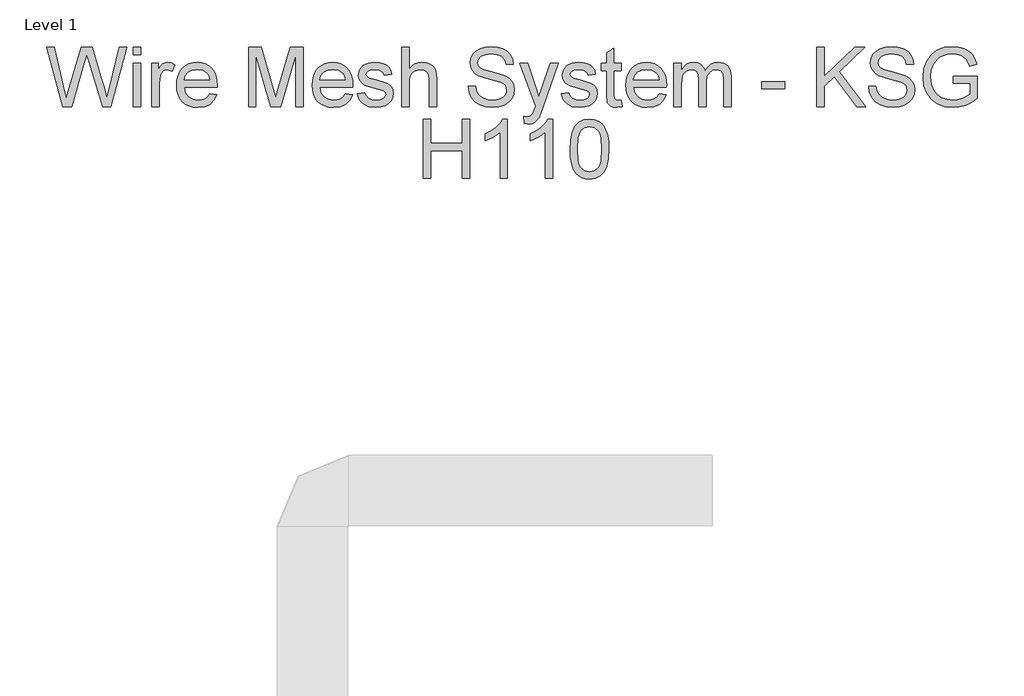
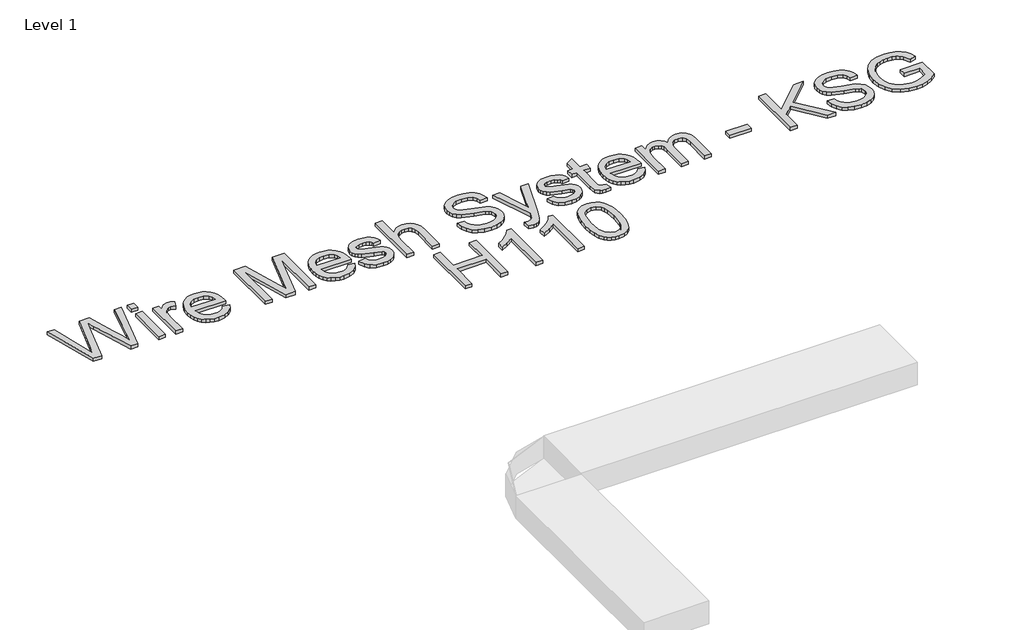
# One storey, part 18 of 32: 1 proxy.
"""IFC4 building model written with IfcOpenShell, lengths in millimetres."""

from ifc_helpers import new_model, si_unit, origin, origin_with_axes, place, context, project, spatial, polyline, outline, extrude, element, save

model = new_model("IFC4")

# Units and contexts
model_context = context("Model", 3, world=origin())
ifc_project = project(units=[si_unit("LENGTHUNIT", "METRE", prefix="MILLI")], contexts=[model_context])

# Site, building, storey
site = spatial("IfcSite", under=ifc_project)
building = spatial("IfcBuilding", under=site)
storey = spatial("IfcBuildingStorey", under=building, Name="Level 1", Elevation=0.0)

# Proxy
placement = place(None, origin())
element("IfcBuildingElementProxy", 1, Name="250mm Arial 3", ObjectType="250mm Arial 3", at=placement, inside=storey, context=model_context, shape_type="SweptSolid", body=[
    extrude(outline(polyline([(11206.4057877, 23403.1379564), (11137.9184229, 23654.2787318), (11170.2920385, 23654.2787318), (11210.0232939, 23489.2223433), (11222.2860271, 23438.2706869), (11235.4071516, 23483.3362313), (11285.1938483, 23654.2787318), (11331.853548, 23654.2787318), (11368.0286109, 23530.3638131), (11383.5256399, 23484.3785637), (11394.9453102, 23438.2706869), (11406.8401614, 23487.7508153), (11446.9392988, 23654.2787318), (11479.3129144, 23654.2787318), (11410.764236, 23403.1379564), (11377.2256608, 23403.1379564), (11317.0156409, 23596.8891405), (11308.6156686, 23623.9284672), (11299.1733641, 23591.3709106), (11244.2976332, 23403.1379564), (11206.4057877, 23403.1379564)])), origin_with_axes(), (0.0, 0.0, 1.0), 15.0),
    extrude(outline(polyline([(11506.7814367, 23622.8861348), (11506.7814367, 23654.2787318), (11538.1740336, 23654.2787318), (11538.1740336, 23622.8861348), (11506.7814367, 23622.8861348)])), origin_with_axes(), (0.0, 0.0, 1.0), 15.0),
    extrude(outline(polyline([(11506.7814367, 23403.1379564), (11506.7814367, 23587.5694633), (11538.1740336, 23587.5694633), (11538.1740336, 23403.1379564), (11506.7814367, 23403.1379564)])), origin_with_axes(), (0.0, 0.0, 1.0), 15.0),
    extrude(outline(polyline([(11585.262929, 23403.1379564), (11585.262929, 23587.5694633), (11612.7314513, 23587.5694633), (11612.7314513, 23560.284882), (11622.878863, 23576.1038078), (11632.2291971, 23585.423485), (11651.8495701, 23591.4935379), (11667.4845549, 23589.0716481), (11683.3647944, 23581.8059787), (11672.8801575, 23553.6630061), (11650.8072378, 23560.100941), (11641.4339112, 23558.5527709), (11633.0569316, 23553.9082608), (11621.7445602, 23536.7404343), (11616.6555259, 23500.0748621), (11616.6555259, 23403.1379564), (11585.262929, 23403.1379564)])), origin_with_axes(), (0.0, 0.0, 1.0), 15.0),
    extrude(outline(polyline([(11832.1117478, 23458.075001), (11862.891208, 23454.1509264), (11851.8010987, 23430.9590323), (11834.1044419, 23413.6225933), (11810.1997764, 23402.8160596), (11780.4856411, 23399.2138818), (11761.0070559, 23400.7678), (11743.6514564, 23405.4295547), (11728.4188425, 23413.1991458), (11715.3092143, 23424.0765733), (11704.7670959, 23437.759101), (11697.2370113, 23453.9439928), (11692.7189606, 23472.6312485), (11691.2129436, 23493.8208682), (11692.734289, 23515.7290074), (11697.298325, 23535.0389801), (11704.9050516, 23551.7507861), (11715.554469, 23565.8644256), (11728.6296082, 23577.0771622), (11743.5135006, 23585.0862598), (11760.2061461, 23589.8917184), (11778.7075448, 23591.4935379), (11796.6130513, 23589.8955505), (11812.8056072, 23585.1015883), (11827.2852127, 23577.1116512), (11840.0518675, 23565.9257393), (11850.4732747, 23551.8427566), (11857.9171369, 23535.1616074), (11862.3834543, 23515.8822916), (11863.8722267, 23494.0048092), (11863.6882857, 23485.5435233), (11722.6055406, 23485.5435233), (11728.0394642, 23462.0450609), (11740.6624152, 23444.7699355), (11758.8802381, 23434.1473429), (11781.0987778, 23430.6064787), (11797.8067517, 23432.2466193), (11811.8782381, 23437.1670409), (11823.3132367, 23445.6743121), (11832.1117478, 23458.075001)]), holes=[polyline([(11722.6055406, 23516.9361202), (11832.4796298, 23516.9361202), (11828.2336584, 23533.5214669), (11819.9103283, 23545.3856612), (11801.608199, 23556.4221211), (11778.5849175, 23560.100941), (11757.4240386, 23557.1655493), (11739.9266512, 23548.359374), (11727.7635527, 23534.632777), (11722.6055406, 23516.9361202)])]), origin_with_axes(), (0.0, 0.0, 1.0), 15.0),
    extrude(outline(polyline([(11997.2907636, 23403.1379564), (11997.2907636, 23654.2787318), (12051.3081032, 23654.2787318), (12102.6889552, 23477.2661784), (12113.0509648, 23440.2940379), (12124.2713656, 23480.3318617), (12174.7938263, 23654.2787318), (12228.8111659, 23654.2787318), (12228.8111659, 23403.1379564), (12197.418569, 23403.1379564), (12197.418569, 23622.8861348), (12134.3268068, 23403.1379564), (12091.7751227, 23403.1379564), (12028.6833605, 23622.8861348), (12028.6833605, 23403.1379564), (11997.2907636, 23403.1379564)])), origin_with_axes(), (0.0, 0.0, 1.0), 15.0),
    extrude(outline(polyline([(12408.9507162, 23458.075001), (12439.7301765, 23454.1509264), (12428.6400672, 23430.9590323), (12410.9434104, 23413.6225933), (12387.0387449, 23402.8160596), (12357.3246096, 23399.2138818), (12337.8460243, 23400.7678), (12320.4904248, 23405.4295547), (12305.2578109, 23413.1991458), (12292.1481828, 23424.0765733), (12281.6060643, 23437.759101), (12274.0759797, 23453.9439928), (12269.557929, 23472.6312485), (12268.0519121, 23493.8208682), (12269.5732574, 23515.7290074), (12274.1372934, 23535.0389801), (12281.7440201, 23551.7507861), (12292.3934374, 23565.8644256), (12305.4685767, 23577.0771622), (12320.3524691, 23585.0862598), (12337.0451146, 23589.8917184), (12355.5465133, 23591.4935379), (12373.4520197, 23589.8955505), (12389.6445757, 23585.1015883), (12404.1241811, 23577.1116512), (12416.890836, 23565.9257393), (12427.3122431, 23551.8427566), (12434.7561053, 23535.1616074), (12439.2224227, 23515.8822916), (12440.7111951, 23494.0048092), (12440.5272541, 23485.5435233), (12299.444509, 23485.5435233), (12304.8784326, 23462.0450609), (12317.5013836, 23444.7699355), (12335.7192066, 23434.1473429), (12357.9377462, 23430.6064787), (12374.6457202, 23432.2466193), (12388.7172065, 23437.1670409), (12400.1522052, 23445.6743121), (12408.9507162, 23458.075001)]), holes=[polyline([(12299.444509, 23516.9361202), (12409.3185982, 23516.9361202), (12405.0726269, 23533.5214669), (12396.7492967, 23545.3856612), (12378.4471675, 23556.4221211), (12355.4238859, 23560.100941), (12334.263007, 23557.1655493), (12316.7656196, 23548.359374), (12304.6025211, 23534.632777), (12299.444509, 23516.9361202)])]), origin_with_axes(), (0.0, 0.0, 1.0), 15.0),
    extrude(outline(polyline([(12460.3315682, 23458.075001), (12491.7241651, 23461.9990756), (12496.6752437, 23448.5713828), (12506.2555039, 23438.6998826), (12520.5262597, 23432.6298297), (12539.5488245, 23430.6064787), (12558.3414631, 23432.4612171), (12571.5545581, 23438.0254323), (12579.3720505, 23446.0881793), (12581.9778813, 23455.4385134), (12579.3567221, 23463.4399468), (12571.4932444, 23469.5406565), (12539.1809425, 23478.4924517), (12491.9081061, 23493.851525), (12479.9442771, 23501.5693827), (12471.2760576, 23511.7857723), (12466.0107465, 23523.8492361), (12464.2556428, 23537.1083163), (12469.8965001, 23560.4994798), (12485.2862302, 23578.3724134), (12505.2438285, 23587.6614338), (12532.2524983, 23591.4935379), (12552.6852774, 23589.9530321), (12570.4509121, 23585.3315145), (12584.7369963, 23578.0811735), (12594.7311238, 23568.6541974), (12601.3529997, 23556.3531432), (12605.522329, 23540.4805679), (12574.1297321, 23536.5564933), (12570.1673364, 23546.4356577), (12562.3268514, 23553.8776039), (12550.5316349, 23558.5451067), (12534.7050449, 23560.100941), (12516.6788271, 23558.6140846), (12504.6613486, 23554.1535154), (12497.901517, 23547.7155805), (12495.6482398, 23540.2966269), (12499.3883734, 23531.1608907), (12511.0992836, 23524.2324465), (12538.1386102, 23517.5492569), (12584.2158301, 23502.7726634), (12596.3865928, 23495.7062634), (12605.6142995, 23486.0340326), (12611.4314335, 23473.7253142), (12613.3704782, 23458.7494513), (12611.0942084, 23443.2677507), (12604.2653988, 23428.7057551), (12593.1446327, 23416.2054314), (12577.992493, 23406.9087468), (12559.6903637, 23401.137598), (12539.1196289, 23399.2138818), (12507.4664488, 23402.9233586), (12484.3665252, 23414.0517889), (12468.9461383, 23432.4765455), (12460.3315682, 23458.075001)])), origin_with_axes(), (0.0, 0.0, 1.0), 15.0),
    extrude(outline(polyline([(12648.6871497, 23403.1379564), (12648.6871497, 23654.2787318), (12680.0797467, 23654.2787318), (12680.0797467, 23561.940351), (12691.610548, 23574.8698703), (12704.5592278, 23584.1052412), (12718.9257861, 23589.6464637), (12734.710223, 23591.4935379), (12753.6714741, 23589.4778512), (12769.9655808, 23583.4307909), (12782.7954654, 23573.8275379), (12791.3640502, 23561.1432733), (12796.1925014, 23543.7148638), (12797.8019851, 23519.8791762), (12797.8019851, 23403.1379564), (12766.4093882, 23403.1379564), (12766.4093882, 23516.6295519), (12763.9108563, 23536.2805818), (12756.4152607, 23549.7389315), (12744.3364685, 23557.5104386), (12728.088347, 23560.100941), (12714.8216026, 23558.3535015), (12702.3672642, 23553.1111831), (12692.0512399, 23544.8798235), (12685.1994378, 23534.1652603), (12681.3596694, 23519.9251614), (12680.0797467, 23501.1171944), (12680.0797467, 23403.1379564), (12648.6871497, 23403.1379564)])), origin_with_axes(), (0.0, 0.0, 1.0), 15.0),
    extrude(outline(polyline([(12931.220522, 23489.4675979), (12962.613119, 23489.4675979), (12966.2152968, 23472.0468526), (12972.7298738, 23458.0443442), (12982.8926139, 23446.9312422), (12997.4392812, 23438.1787164), (13015.2202443, 23432.4995381), (13035.085872, 23430.6064787), (13052.5755952, 23432.0396856), (13067.8886833, 23436.3393065), (13080.2970364, 23443.1451234), (13089.0725548, 23452.0969186), (13094.2918806, 23462.3746218), (13096.0316559, 23473.1581628), (13090.8199943, 23492.7478791), (13082.8798746, 23500.4963936), (13069.4828386, 23507.0033064), (13023.7735007, 23518.990128), (12974.5692838, 23534.4718287), (12958.9419632, 23545.0331076), (12947.8671823, 23557.8323354), (12941.268299, 23572.5936004), (12939.0686713, 23589.0409913), (12941.7894652, 23607.4274268), (12949.951847, 23624.5722607), (12963.3412187, 23639.1035995), (12981.7429827, 23649.64955), (13003.8312308, 23656.0644923), (13028.2800551, 23658.2028064), (13054.7675588, 23655.9648576), (13077.9441245, 23649.2510112), (13096.9820177, 23638.1992229), (13111.053504, 23622.9474485), (13119.959314, 23604.4460498), (13123.5001782, 23583.6453887), (13092.1075813, 23583.6453887), (13086.3440967, 23602.3767136), (13074.3266182, 23615.8963769), (13055.549308, 23624.0817513), (13029.5063284, 23626.8102095), (13002.8502122, 23624.1124082), (12984.5634113, 23616.0190043), (12973.986804, 23604.1088247), (12970.4612682, 23589.9606963), (12972.9598001, 23577.8972325), (12980.4553957, 23568.1943449), (12998.1750452, 23559.5184612), (13031.7136204, 23550.6586365), (13087.2638017, 23534.9010243), (13105.1597279, 23523.5120109), (13117.6447231, 23509.455853), (13124.9793704, 23492.8858348), (13127.4242528, 23473.9552405), (13124.6114884, 23454.6031147), (13116.1731951, 23436.4006201), (13102.4542624, 23420.7349785), (13083.7995795, 23408.9934115), (13061.366442, 23401.6587642), (13036.3121453, 23399.2138818), (13005.5556777, 23401.8503694), (12980.2407979, 23409.7598323), (12960.076266, 23422.9729273), (12944.7708422, 23441.5203112), (12934.9453272, 23464.1143971), (12931.220522, 23489.4675979)])), origin_with_axes(), (0.0, 0.0, 1.0), 15.0),
    extrude(outline(polyline([(13170.5890736, 23332.5046133), (13166.664999, 23362.7322506), (13182.6065521, 23359.9731356), (13197.5057729, 23363.4373577), (13206.6415091, 23373.0942601), (13215.2254223, 23396.2095122), (13217.677969, 23403.8124067), (13150.9687005, 23587.5694633), (13184.0780801, 23587.5694633), (13219.4560653, 23485.1756413), (13231.7801121, 23444.2181125), (13244.1041589, 23480.3931754), (13280.4631628, 23587.5694633), (13313.3272877, 23587.5694633), (13249.1318795, 23398.7233725), (13232.4545624, 23357.7658437), (13223.9166345, 23344.6907044), (13214.2444037, 23335.6316103), (13203.0086744, 23330.3433066), (13189.780251, 23328.5805387), (13170.5890736, 23332.5046133)])), origin_with_axes(), (0.0, 0.0, 1.0), 15.0),
    extrude(outline(polyline([(13327.5520582, 23458.075001), (13358.9446551, 23461.9990756), (13363.8957336, 23448.5713828), (13373.4759939, 23438.6998826), (13387.7467496, 23432.6298297), (13406.7693145, 23430.6064787), (13425.5619531, 23432.4612171), (13438.7750481, 23438.0254323), (13446.5925405, 23446.0881793), (13449.1983713, 23455.4385134), (13446.577212, 23463.4399468), (13438.7137344, 23469.5406565), (13406.4014325, 23478.4924517), (13359.1285961, 23493.851525), (13347.164767, 23501.5693827), (13338.4965475, 23511.7857723), (13333.2312365, 23523.8492361), (13331.4761328, 23537.1083163), (13337.1169901, 23560.4994798), (13352.5067202, 23578.3724134), (13372.4643184, 23587.6614338), (13399.4729882, 23591.4935379), (13419.9057674, 23589.9530321), (13437.6714021, 23585.3315145), (13451.9574862, 23578.0811735), (13461.9516138, 23568.6541974), (13468.5734897, 23556.3531432), (13472.7428189, 23540.4805679), (13441.350222, 23536.5564933), (13437.3878264, 23546.4356577), (13429.5473413, 23553.8776039), (13417.7521249, 23558.5451067), (13401.9255349, 23560.100941), (13383.8993171, 23558.6140846), (13371.8818386, 23554.1535154), (13365.1220069, 23547.7155805), (13362.8687297, 23540.2966269), (13366.6088633, 23531.1608907), (13378.3197735, 23524.2324465), (13405.3591002, 23517.5492569), (13451.4363201, 23502.7726634), (13463.6070827, 23495.7062634), (13472.8347894, 23486.0340326), (13478.6519235, 23473.7253142), (13480.5909682, 23458.7494513), (13478.3146983, 23443.2677507), (13471.4858888, 23428.7057551), (13460.3651226, 23416.2054314), (13445.212983, 23406.9087468), (13426.9108537, 23401.137598), (13406.3401188, 23399.2138818), (13374.6869388, 23402.9233586), (13351.5870152, 23414.0517889), (13336.1666282, 23432.4765455), (13327.5520582, 23458.075001)])), origin_with_axes(), (0.0, 0.0, 1.0), 15.0),
    extrude(outline(polyline([(13582.6169082, 23429.3188917), (13586.5409828, 23402.2182514), (13563.0578488, 23399.2138818), (13547.9900154, 23400.5167972), (13536.7542861, 23404.4255434), (13523.6331616, 23418.0984909), (13519.8317143, 23453.7217307), (13519.8317143, 23556.1768664), (13496.2872666, 23556.1768664), (13496.2872666, 23587.5694633), (13519.8317143, 23587.5694633), (13519.8317143, 23632.3897531), (13551.2243112, 23650.8451665), (13551.2243112, 23587.5694633), (13582.6169082, 23587.5694633), (13582.6169082, 23556.1768664), (13551.2243112, 23556.1768664), (13551.2243112, 23454.6414357), (13552.8797802, 23438.4546279), (13558.244726, 23432.7218002), (13568.9439607, 23430.6064787), (13582.6169082, 23429.3188917)])), origin_with_axes(), (0.0, 0.0, 1.0), 15.0),
    extrude(outline(polyline([(13743.1360854, 23458.075001), (13773.9155457, 23454.1509264), (13762.8254363, 23430.9590323), (13745.1287795, 23413.6225933), (13721.2241141, 23402.8160596), (13691.5099787, 23399.2138818), (13672.0313935, 23400.7678), (13654.675794, 23405.4295547), (13639.4431801, 23413.1991458), (13626.3335519, 23424.0765733), (13615.7914335, 23437.759101), (13608.2613489, 23453.9439928), (13603.7432982, 23472.6312485), (13602.2372812, 23493.8208682), (13603.7586266, 23515.7290074), (13608.3226626, 23535.0389801), (13615.9293893, 23551.7507861), (13626.5788066, 23565.8644256), (13639.6539458, 23577.0771622), (13654.5378382, 23585.0862598), (13671.2304838, 23589.8917184), (13689.7318824, 23591.4935379), (13707.6373889, 23589.8955505), (13723.8299449, 23585.1015883), (13738.3095503, 23577.1116512), (13751.0762051, 23565.9257393), (13761.4976123, 23551.8427566), (13768.9414745, 23535.1616074), (13773.4077919, 23515.8822916), (13774.8965643, 23494.0048092), (13774.7126233, 23485.5435233), (13633.6298782, 23485.5435233), (13639.0638018, 23462.0450609), (13651.6867528, 23444.7699355), (13669.9045757, 23434.1473429), (13692.1231154, 23430.6064787), (13708.8310893, 23432.2466193), (13722.9025757, 23437.1670409), (13734.3375743, 23445.6743121), (13743.1360854, 23458.075001)]), holes=[polyline([(13633.6298782, 23516.9361202), (13743.5039674, 23516.9361202), (13739.257996, 23533.5214669), (13730.9346659, 23545.3856612), (13712.6325366, 23556.4221211), (13689.6092551, 23560.100941), (13668.4483762, 23557.1655493), (13650.9509888, 23548.359374), (13638.7878903, 23534.632777), (13633.6298782, 23516.9361202)])]), origin_with_axes(), (0.0, 0.0, 1.0), 15.0),
    extrude(outline(polyline([(13806.2891612, 23403.1379564), (13806.2891612, 23587.5694633), (13837.6817582, 23587.5694633), (13837.6817582, 23557.2191987), (13847.1240627, 23571.1603935), (13859.2641685, 23582.0818902), (13873.6882084, 23589.140626), (13889.9823151, 23591.4935379), (13907.4413815, 23589.0946407), (13921.4362257, 23581.8979492), (13931.8902058, 23570.3786442), (13938.7266795, 23555.0119067), (13950.1693424, 23570.9726204), (13963.221489, 23582.3731301), (13977.8831194, 23589.213436), (13994.1542334, 23591.4935379), (14017.7523306, 23587.6997549), (14035.2037327, 23576.3184056), (14045.9872737, 23557.0429219), (14049.5817874, 23529.5667354), (14049.5817874, 23403.1379564), (14018.1891905, 23403.1379564), (14018.1891905, 23516.0777289), (14015.2767913, 23542.2893211), (14004.7308408, 23555.1958477), (13986.7965935, 23560.100941), (13969.7897155, 23556.9586156), (13955.9251628, 23547.5316395), (13946.7051203, 23531.1762191), (13943.6317728, 23507.248561), (13943.6317728, 23403.1379564), (13912.2391758, 23403.1379564), (13912.2391758, 23519.5726079), (13910.4227585, 23537.3229141), (13904.9735064, 23549.9841861), (13895.3855819, 23557.5717523), (13881.1531473, 23560.100941), (13869.0590267, 23558.4148152), (13857.9152679, 23553.3564378), (13848.718218, 23545.048436), (13842.4642241, 23533.6134374), (13837.6817582, 23496.1507875), (13837.6817582, 23403.1379564), (13806.2891612, 23403.1379564)])), origin_with_axes(), (0.0, 0.0, 1.0), 15.0),
    extrude(outline(polyline([(14179.0762497, 23477.6953741), (14179.0762497, 23509.087971), (14277.1781151, 23509.087971), (14277.1781151, 23477.6953741), (14179.0762497, 23477.6953741)])), origin_with_axes(), (0.0, 0.0, 1.0), 15.0),
    extrude(outline(polyline([(14414.5207266, 23403.1379564), (14414.5207266, 23654.2787318), (14445.9133235, 23654.2787318), (14445.9133235, 23531.3448317), (14574.6720218, 23654.2787318), (14618.5726066, 23654.2787318), (14510.4766137, 23551.0265185), (14622.4966812, 23403.1379564), (14584.1143264, 23403.1379564), (14488.219753, 23529.8119901), (14445.9133235, 23489.4675979), (14445.9133235, 23403.1379564), (14414.5207266, 23403.1379564)])), origin_with_axes(), (0.0, 0.0, 1.0), 15.0),
    extrude(outline(polyline([(14634.268905, 23489.4675979), (14665.661502, 23489.4675979), (14669.2636798, 23472.0468526), (14675.7782568, 23458.0443442), (14685.940997, 23446.9312422), (14700.4876642, 23438.1787164), (14718.2686273, 23432.4995381), (14738.134255, 23430.6064787), (14755.6239782, 23432.0396856), (14770.9370663, 23436.3393065), (14783.3454194, 23443.1451234), (14792.1209378, 23452.0969186), (14797.3402636, 23462.3746218), (14799.0800389, 23473.1581628), (14793.8683773, 23492.7478791), (14785.9282576, 23500.4963936), (14772.5312216, 23507.0033064), (14726.8218837, 23518.990128), (14677.6176668, 23534.4718287), (14661.9903462, 23545.0331076), (14650.9155653, 23557.8323354), (14644.316682, 23572.5936004), (14642.1170543, 23589.0409913), (14644.8378482, 23607.4274268), (14653.00023, 23624.5722607), (14666.3896018, 23639.1035995), (14684.7913657, 23649.64955), (14706.8796138, 23656.0644923), (14731.3284381, 23658.2028064), (14757.8159418, 23655.9648576), (14780.9925075, 23649.2510112), (14800.0304007, 23638.1992229), (14814.101887, 23622.9474485), (14823.007697, 23604.4460498), (14826.5485612, 23583.6453887), (14795.1559643, 23583.6453887), (14789.3924797, 23602.3767136), (14777.3750012, 23615.8963769), (14758.597691, 23624.0817513), (14732.5547114, 23626.8102095), (14705.8985952, 23624.1124082), (14687.6117943, 23616.0190043), (14677.035187, 23604.1088247), (14673.5096512, 23589.9606963), (14676.0081831, 23577.8972325), (14683.5037787, 23568.1943449), (14701.2234282, 23559.5184612), (14734.7620034, 23550.6586365), (14790.3121847, 23534.9010243), (14808.2081109, 23523.5120109), (14820.6931061, 23509.455853), (14828.0277534, 23492.8858348), (14830.4726358, 23473.9552405), (14827.6598714, 23454.6031147), (14819.2215781, 23436.4006201), (14805.5026454, 23420.7349785), (14786.8479625, 23408.9934115), (14764.414825, 23401.6587642), (14739.3605283, 23399.2138818), (14708.6040607, 23401.8503694), (14683.2891809, 23409.7598323), (14663.124649, 23422.9729273), (14647.8192252, 23441.5203112), (14637.9937102, 23464.1143971), (14634.268905, 23489.4675979)])), origin_with_axes(), (0.0, 0.0, 1.0), 15.0),
    extrude(outline(polyline([(14995.2837696, 23501.2398218), (14995.2837696, 23532.6324187), (15097.3097096, 23532.6324187), (15097.3097096, 23438.7611963), (15072.515996, 23421.5167277), (15046.9405331, 23409.1466957), (15020.6446347, 23401.6970852), (14993.6896143, 23399.2138818), (14958.4725775, 23403.160949), (14926.6431207, 23415.0021507), (14900.2016023, 23434.3236197), (14881.1483806, 23460.7114886), (14869.6290757, 23492.3646686), (14865.7893073, 23527.4820708), (14869.6137473, 23562.8523918), (14881.087067, 23595.7548377), (14899.7340856, 23623.3536516), (14925.0796222, 23642.8130763), (14955.951053, 23654.3553739), (14991.175754, 23658.2028064), (15017.0347926, 23655.9725218), (15040.2880004, 23649.281668), (15059.8700524, 23638.6130901), (15074.7156238, 23624.4496333), (15085.6984342, 23606.109183), (15093.6922034, 23582.9096247), (15064.7521531, 23574.7549071), (15050.4354121, 23603.7869279), (15040.0427457, 23613.1985756), (15025.9712594, 23620.5255587), (15009.1943076, 23625.2390468), (14990.6852447, 23626.8102095), (14969.018528, 23625.1164194), (14950.4941367, 23620.0350494), (14935.1810487, 23612.2022286), (14923.1482418, 23602.2540863), (14906.9920908, 23578.0658451), (14899.6344509, 23554.3681132), (14897.1819043, 23528.7696577), (14900.1326244, 23498.7489541), (14908.9847849, 23474.047211), (14923.4701385, 23454.8407051), (14943.3204378, 23441.3057134), (14966.550653, 23433.2812874), (14991.175754, 23430.6064787), (15012.9191128, 23432.6221655), (15034.125977, 23438.6692258), (15065.9171127, 23455.867709), (15065.9171127, 23501.2398218), (14995.2837696, 23501.2398218)])), origin_with_axes(), (0.0, 0.0, 1.0), 15.0),
    extrude(outline(polyline([(12740.9029032, 23098.2009118), (12740.9029032, 23349.3416872), (12772.2955001, 23349.3416872), (12772.2955001, 23247.3157472), (12905.714037, 23247.3157472), (12905.714037, 23349.3416872), (12937.106634, 23349.3416872), (12937.106634, 23098.2009118), (12905.714037, 23098.2009118), (12905.714037, 23215.9231502), (12772.2955001, 23215.9231502), (12772.2955001, 23098.2009118), (12740.9029032, 23098.2009118)])), origin_with_axes(), (0.0, 0.0, 1.0), 15.0),
    extrude(outline(polyline([(13097.9936932, 23098.2009118), (13066.6010963, 23098.2009118), (13066.6010963, 23293.9141332), (13036.8639683, 23272.7302617), (13003.8159024, 23256.880679), (13003.8159024, 23286.5564933), (13028.4716603, 23299.9688577), (13049.8318087, 23315.9257393), (13066.6700741, 23332.8942963), (13077.7601835, 23349.3416872), (13097.9936932, 23349.3416872), (13097.9936932, 23098.2009118)])), origin_with_axes(), (0.0, 0.0, 1.0), 15.0),
    extrude(outline(polyline([(13290.2733493, 23098.2009118), (13258.8807524, 23098.2009118), (13258.8807524, 23293.9141332), (13229.1436245, 23272.7302617), (13196.0955586, 23256.880679), (13196.0955586, 23286.5564933), (13220.7513165, 23299.9688577), (13242.1114648, 23315.9257393), (13258.9497303, 23332.8942963), (13270.0398396, 23349.3416872), (13290.2733493, 23349.3416872), (13290.2733493, 23098.2009118)])), origin_with_axes(), (0.0, 0.0, 1.0), 15.0),
    extrude(outline(polyline([(13364.830767, 23221.7479485), (13367.1376937, 23261.9467207), (13374.0584737, 23294.0061037), (13385.5241293, 23318.4166069), (13401.4656824, 23335.6687397), (13421.9980962, 23345.9234503), (13447.2363339, 23349.3416872), (13466.5807955, 23347.3183362), (13483.9019061, 23341.2482833), (13498.3872597, 23331.3691189), (13509.2244501, 23317.9184334), (13523.9397299, 23280.7623519), (13528.2163581, 23255.0489333), (13529.6419009, 23221.7479485), (13527.3579668, 23181.7791026), (13520.5061647, 23149.7963616), (13509.109487, 23125.3628658), (13493.1909265, 23108.0417552), (13472.6125274, 23097.7180667), (13447.2363339, 23094.2768372), (13429.9458802, 23095.7713578), (13414.6174637, 23100.2549196), (13401.2510845, 23107.7275226), (13389.8467427, 23118.1891669), (13378.9022533, 23137.1006007), (13371.0847609, 23160.6642089), (13366.3942655, 23188.8799915), (13364.830767, 23221.7479485)]), holes=[polyline([(13396.2233639, 23221.8092622), (13399.9021839, 23172.4287685), (13404.5007088, 23155.5387696), (13410.9386438, 23143.848936), (13427.3707062, 23130.2143096), (13447.2363339, 23125.6694341), (13467.1019617, 23130.229638), (13483.5340241, 23143.9102497), (13489.9719591, 23155.6192438), (13494.570484, 23172.5054106), (13498.2493039, 23221.8092622), (13494.6931113, 23270.0784456), (13490.2478705, 23286.912879), (13484.0245335, 23298.8805402), (13467.6231278, 23313.1819527), (13446.8684519, 23317.9490902), (13427.217422, 23313.7491041), (13411.4291531, 23301.1491458), (13404.7766203, 23288.1199918), (13400.0248112, 23270.5536265), (13396.2233639, 23221.8092622)])]), origin_with_axes(), (0.0, 0.0, 1.0), 15.0),
])

save(model, "model.ifc")
